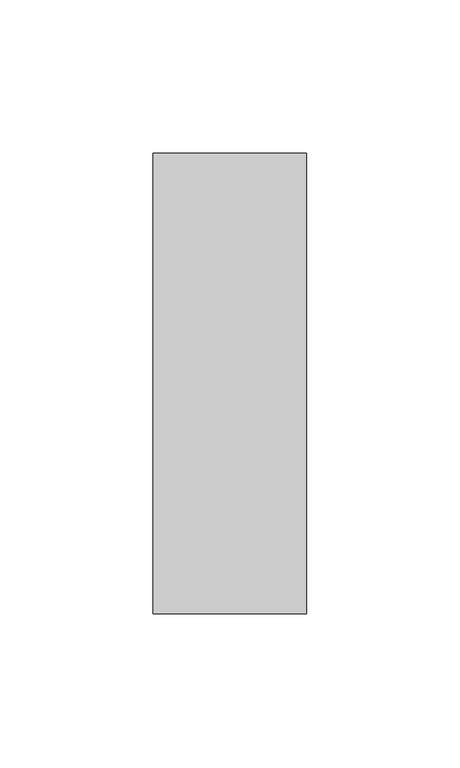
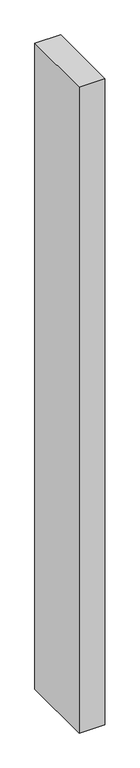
"""IFC4 building model written with IfcOpenShell, lengths in millimetres: member geometry, Прямоугольный импост : 50 x 150 мм."""

from ifc_helpers import new_model, si_unit, frame, origin, place, context, project, spatial, polyline, outline, extrude, source, transform, mapped, element, save


def member_e74e10ab(model_context):
    return source(origin(), model_context, "Body", "SweptSolid", [
        extrude(outline(polyline([(25.0, 75.0), (25.0, -75.0), (-25.0, -75.0), (-25.0, 75.0), (25.0, 75.0)])), frame((0.0, 0.0, -1332.1861564), z_axis=(0.0, 0.0, 1.0), x_axis=(1.0, 0.0, 0.0)), (0.0, 0.0, 1.0), 1332.1861564),
    ])


if __name__ == "__main__":
    model = new_model("IFC4")
    model_context = context("Model", 3, world=origin())
    ifc_project = project(units=[si_unit("LENGTHUNIT", "METRE", prefix="MILLI")], contexts=[model_context])
    site = spatial("IfcSite", under=ifc_project)
    building = spatial("IfcBuilding", under=site)
    placement = place(None, origin())
    member_shape = member_e74e10ab(model_context)
    element("IfcMember", 1, ObjectType="Прямоугольный импост : 50 x 150 мм", at=placement, inside=building, context=model_context, shape_type="MappedRepresentation", body=[
        mapped(member_shape, transform((0.0, 0.0, 0.0), x_axis=(1.0, 0.0, 0.0), y_axis=(0.0, 1.0, 0.0), z_axis=(0.0, 0.0, 1.0))),
    ])
    save(model, "model.ifc")
